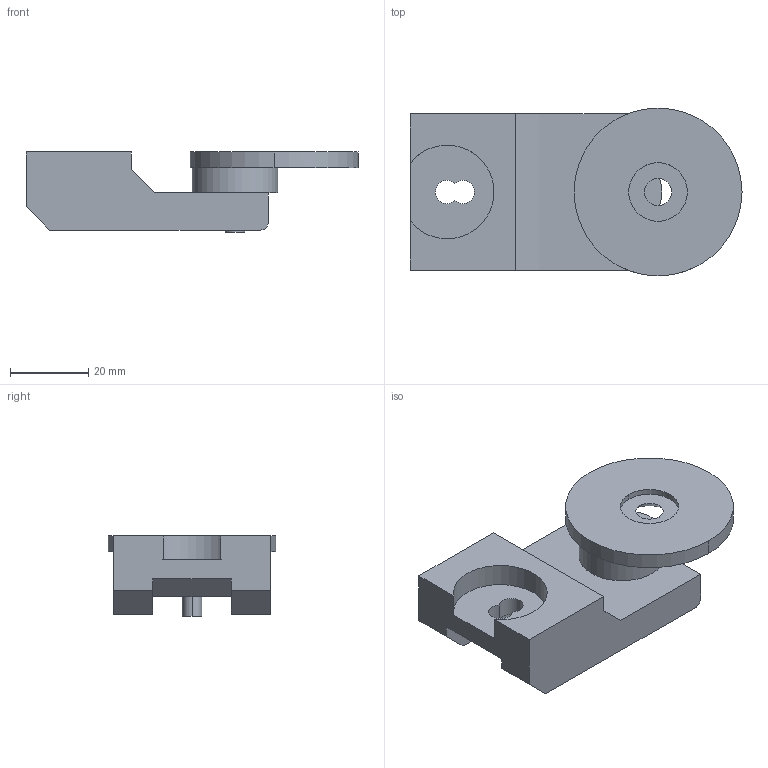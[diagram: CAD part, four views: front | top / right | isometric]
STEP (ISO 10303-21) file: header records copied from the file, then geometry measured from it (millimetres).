
FILE_DESCRIPTION((''),'2;1');
FILE_NAME('CHM4545_ASM','2002-12-27T',('Lipro doo'),('Lipro d.o.o.'),'PRO/ENGINEER BY PARAMETRIC TECHNOLOGY CORPORATION, 2001150','PRO/ENGINEER BY PARAMETRIC TECHNOLOGY CORPORATION, 2001150','');
FILE_SCHEMA(('CONFIG_CONTROL_DESIGN'));
Length unit declared in the file: millimetre
Products named in the file (4): CHM_1; CHM_2; CHM_3; CHM4545_ASM
Assembly tree (3 placements, depth 2):
  CHM4545_ASM
    CHM_1
    CHM_2
    CHM_3
Bounding box: 85 x 43 x 20.5 mm (x, y, z)
Volume: 32127.1 mm3; surface area: 13924.9 mm2
Topology: 3 solids, 4 shells, 43 faces, 105 edges, 70 vertices
Faces by surface type: plane 24, cylinder 17, cone 2
Entity records: 1415 total; most frequent: DIRECTION 247, CARTESIAN_POINT 227, ORIENTED_EDGE 206, EDGE_CURVE 105, AXIS2_PLACEMENT_3D 90, VERTEX_POINT 70, VECTOR 67, LINE 67
